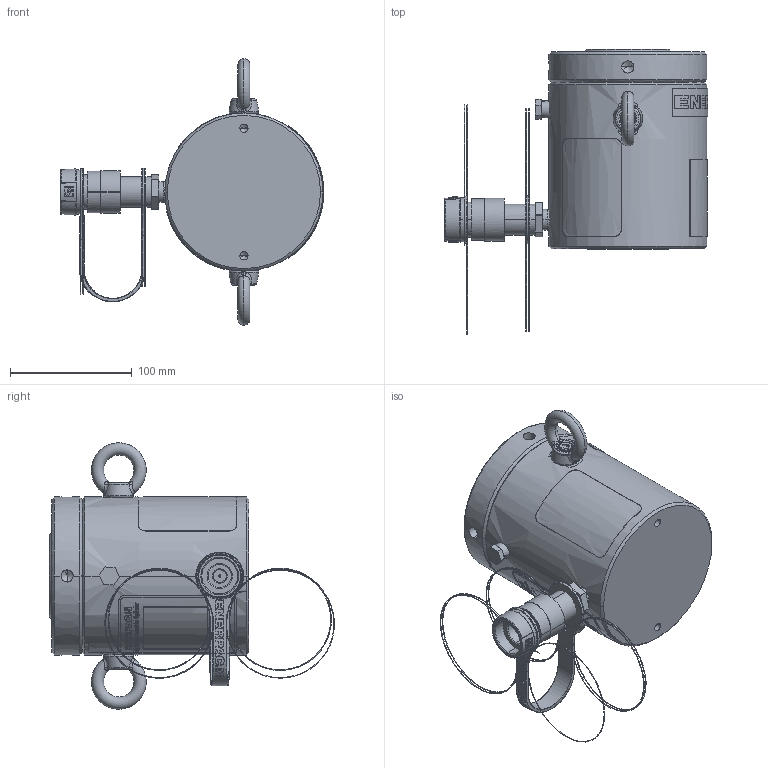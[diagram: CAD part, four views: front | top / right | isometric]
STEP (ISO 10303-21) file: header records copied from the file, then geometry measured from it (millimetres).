
FILE_DESCRIPTION((''),'2;1');
FILE_NAME('HCL502','2017-06-21T',('Akhilesh.Subrahmanya'),(''),'CREO PARAMETRIC BY PTC INC, 2015290','CREO PARAMETRIC BY PTC INC, 2015290','');
FILE_SCHEMA(('CONFIG_CONTROL_DESIGN'));
Products named in the file (1): HCL502
Bounding box: 216.71 x 234.42 x 218.86 mm (x, y, z)
Surface area: 256406.4 mm2 (no closed solid volume)
Topology: 0 solids, 0 shells, 883 faces, 7163 edges, 7102 vertices
Faces by surface type: bspline 832, torus 51
Entity records: 271345 total; most frequent: CARTESIAN_POINT 213759, DIRECTION 7829, DEFINITIONAL_REPRESENTATION 7060, PCURVE 7060, COMPOSITE_CURVE_SEGMENT 7060, TRIMMED_CURVE 6578, B_SPLINE_CURVE_WITH_KNOTS 5905, VECTOR 5429
